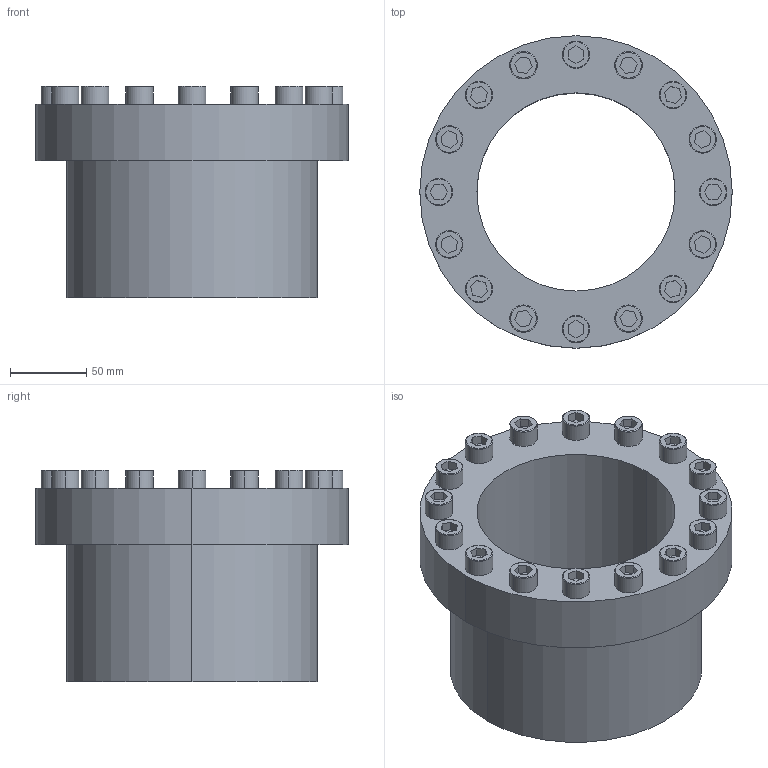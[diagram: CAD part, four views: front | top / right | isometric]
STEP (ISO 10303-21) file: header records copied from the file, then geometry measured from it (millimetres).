
FILE_DESCRIPTION (( 'STEP AP203' ), '1' );
FILE_NAME ('PL-C 130-165.STEP', '2021-10-22T08:47:43', ( '' ), ( '' ), 'SwSTEP 2.0', 'SolidWorks 2018', '' );
FILE_SCHEMA (( 'CONFIG_CONTROL_DESIGN' ));
Length unit declared in the file: millimetre
Products named in the file (1): PL-C 130-165
Bounding box: 205 x 205 x 139 mm (x, y, z)
Volume: 1495790.8 mm3; surface area: 175746 mm2
Topology: 1 solids, 1 shells, 201 faces, 466 edges, 300 vertices
Faces by surface type: plane 131, cylinder 38, torus 32
Entity records: 5765 total; most frequent: DIRECTION 1010, CARTESIAN_POINT 968, ORIENTED_EDGE 932, EDGE_CURVE 466, AXIS2_PLACEMENT_3D 342, VECTOR 326, LINE 326, VERTEX_POINT 300
